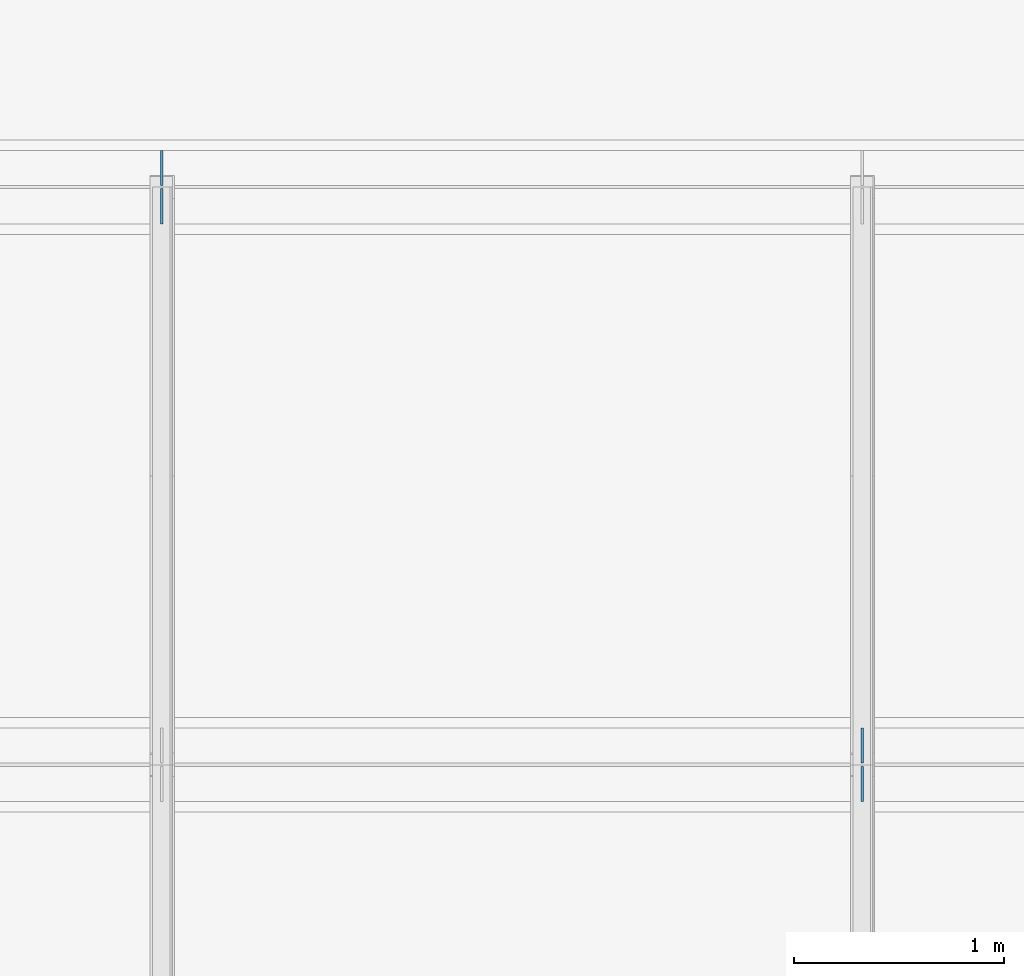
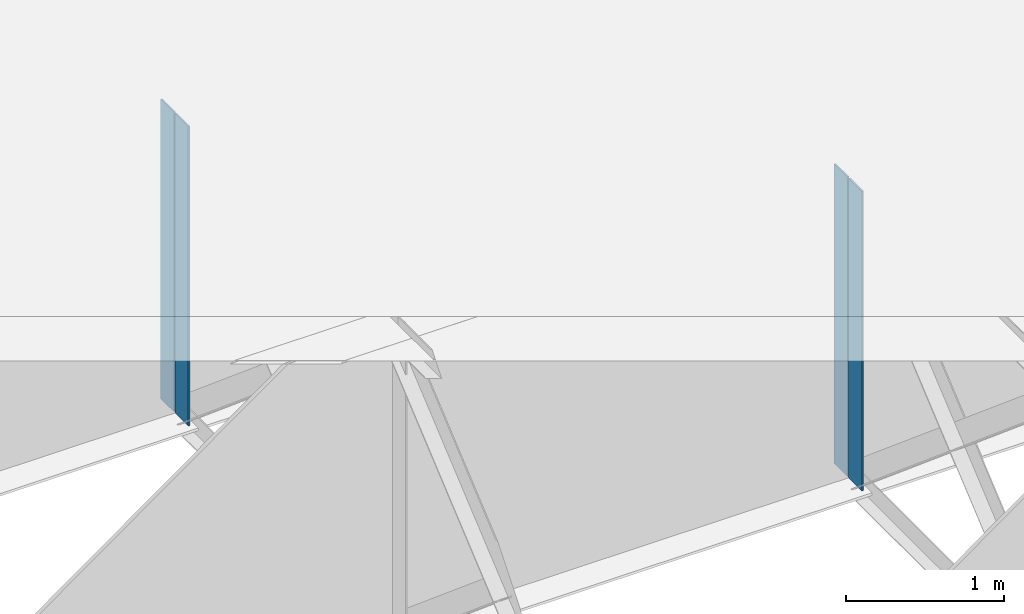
# One storey, part 16 of 19: 4 plates.
"""IFC4 building model written with IfcOpenShell, lengths in metres."""

from ifc_helpers import new_model, si_unit, frame, origin, origin_with_axes, origin_2d_with_axis, place, context, subcontext, project, spatial, rectangle, extrude, element, save


model = new_model("IFC4")

# Units and contexts
model_context = context("Model", 3, precision=1e-05, world=origin())
body_context = subcontext(model_context, "Body", "Model", "MODEL_VIEW")
ifc_project = project(units=[si_unit("LENGTHUNIT", "METRE"), si_unit("AREAUNIT", "SQUARE_METRE"), si_unit("VOLUMEUNIT", "CUBIC_METRE"), si_unit("PLANEANGLEUNIT", "RADIAN")], contexts=[model_context])

# Site, building, storey
site_placement = place(None, origin_with_axes())
site = spatial("IfcSite", under=ifc_project, at=site_placement, Name="Default Site")
building_placement = place(site_placement, origin_with_axes())
building = spatial("IfcBuilding", under=site, at=building_placement, Name="Bridge Structure")
storey_placement = place(building_placement, origin_with_axes())
storey = spatial("IfcBuildingStorey", under=building, at=storey_placement, Name="Superstructure")

# Plates
for number, where, z_axis, x_axis, name in (
    (1, (19.998, 2.8415, -1.157), (0.0, 0.0, 1.0), (1.0, 0.0, 0.0), "Intermediate Stiffener 4"),
    (2, (19.998, 2.6585, -1.157), (0.0, 0.0, 1.0), (1.0, 0.0, 0.0), "Intermediate Stiffener 4"),
    (3, (16.665, 5.5915, -1.157), (0.0, 0.0, 1.0), (1.0, 0.0, 0.0), "Intermediate Stiffener 5"),
    (4, (16.665, 5.4085, -1.157), (0.0, 0.0, 1.0), (1.0, 0.0, 0.0), "Intermediate Stiffener 5"),
):
    element("IfcPlate", number, at=place(storey_placement, frame(where, z_axis=z_axis, x_axis=x_axis)), inside=storey, Name=name, context=body_context, shape_type="SweptSolid", body=[
        extrude(rectangle(XDim=0.012, YDim=0.167, at=origin_2d_with_axis()), origin_with_axes(), (0.0, 0.0, 1.0), 2.314),
    ])

save(model, "model.ifc")
